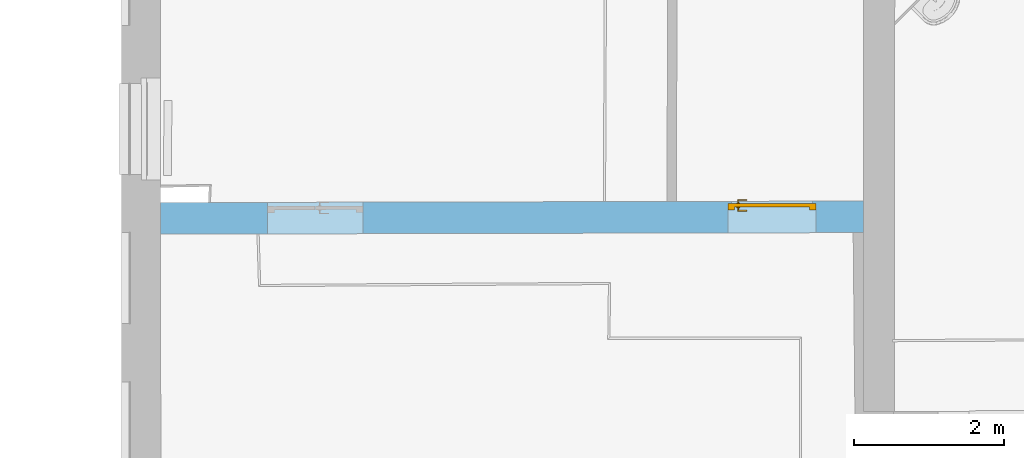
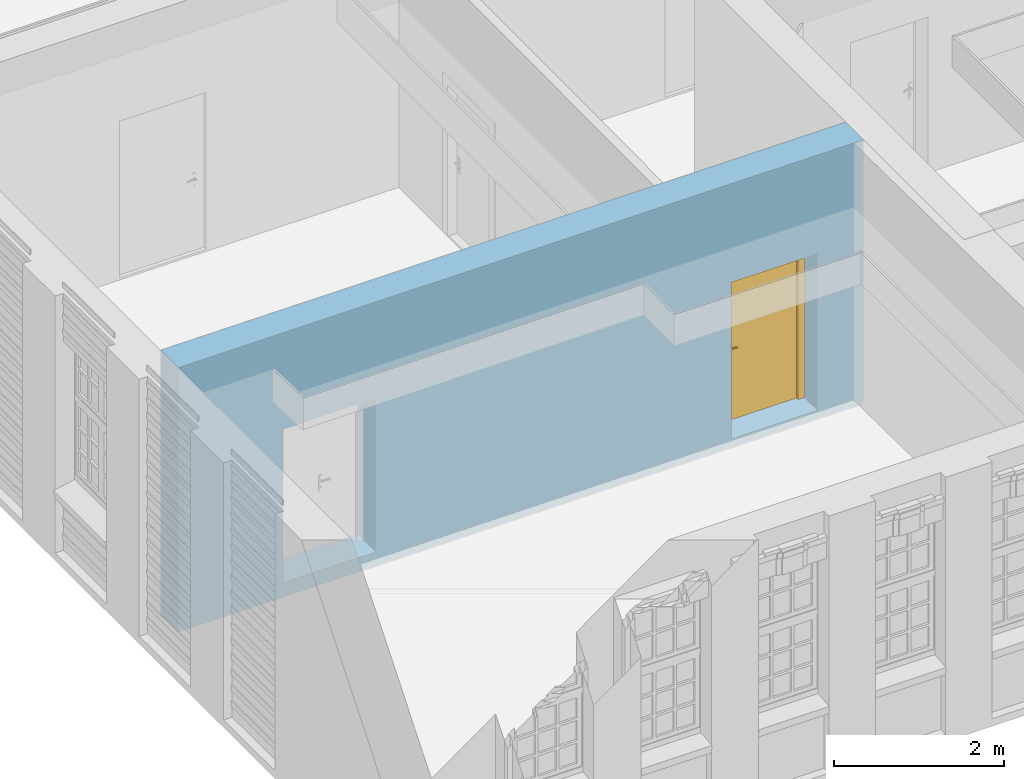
# One storey, part 67 of 158: 1 door, 2 openings, plus 1 element that does not belong to this part.
"""IFC2X3 building model written with IfcOpenShell, lengths in metres."""

from ifc_helpers import new_model, entity, si_unit, converted_unit, derived_unit, money_unit, direction, frame, origin_with_axes, origin_2d_with_axis, place, context, subcontext, project, spatial, polyline, rectangle, outline, extrude, faceted_brep, material, layer, layer_set, layer_usage, type_object, element, fill, save


model = new_model("IFC2X3")

# Units and contexts
model_context = context("Model", 3, precision=1e-05, world=origin_with_axes(), true_north=direction((0.0, 1.0)))
body_context = subcontext(model_context, "Body", "Model", "MODEL_VIEW")
ifc_project = project(units=[si_unit("LENGTHUNIT", "METRE"), si_unit("AREAUNIT", "SQUARE_METRE"), si_unit("VOLUMEUNIT", "CUBIC_METRE"), converted_unit("PLANEANGLEUNIT", "DEGREE", entity("IfcPlaneAngleMeasure", 0.0174532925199), si_unit("PLANEANGLEUNIT", "RADIAN"), dimensions=[0, 0, 0, 0, 0, 0, 0]), money_unit("EUR"), converted_unit("TIMEUNIT", "Year", entity("IfcTimeMeasure", 31556926.0), si_unit("TIMEUNIT", "SECOND"), dimensions=[0, 0, 1, 0, 0, 0, 0]), si_unit("MASSUNIT", "GRAM", prefix="KILO"), si_unit("THERMODYNAMICTEMPERATUREUNIT", "DEGREE_CELSIUS"), si_unit("LUMINOUSINTENSITYUNIT", "LUMEN"), si_unit("ENERGYUNIT", "JOULE", prefix="MEGA"), derived_unit("THERMALCONDUCTANCEUNIT", [(si_unit("POWERUNIT", "WATT"), 1), (si_unit("LENGTHUNIT", "METRE"), -1), (si_unit("THERMODYNAMICTEMPERATUREUNIT", "KELVIN"), -1)]), derived_unit("SPECIFICHEATCAPACITYUNIT", [(si_unit("ENERGYUNIT", "JOULE"), 1), (si_unit("MASSUNIT", "GRAM", prefix="KILO"), -1), (si_unit("THERMODYNAMICTEMPERATUREUNIT", "KELVIN"), -1)]), derived_unit("MASSDENSITYUNIT", [(si_unit("MASSUNIT", "GRAM", prefix="KILO"), 1), (si_unit("VOLUMEUNIT", "CUBIC_METRE"), -1)])], contexts=[model_context])

# Site, building, storey
site_placement = place(None, origin_with_axes())
site = spatial("IfcSite", under=ifc_project, at=site_placement, Name="Gelände", CompositionType="ELEMENT")
building_placement = place(site_placement, origin_with_axes())
building = spatial("IfcBuilding", under=site, at=building_placement, Name="Gebäude", CompositionType="ELEMENT")
storey_placement = place(building_placement, origin_with_axes())
storey = spatial("IfcBuildingStorey", under=building, at=storey_placement, Name="ERDGESCHOSS", CompositionType="ELEMENT", Elevation=0.0)

# Wall, openings, door
ifc_material = material(Name="05_ALLGEMEIN - TRAGENDE BAUTEILE")
ifc_layer = layer(ifc_material, 0.42, ventilated="UNKNOWN")
ifc_layer_set = layer_set([ifc_layer], Name="05_ALLGEMEIN - TRAGENDE BAUTEILE 0.42")
ifc_layer_usage = layer_usage(ifc_layer_set, "AXIS2", "NEGATIVE", 0.42)
wall_type = type_object("IfcWallType", Name="05_ALLGEMEIN - TRAGENDE BAUTEILE 420", PredefinedType="ELEMENTEDWALL")
wall_placement = place(storey_placement, frame((-17.7771544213, 13.195106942, -0.21), z_axis=(0.0, 0.0, 1.0), x_axis=(-0.999997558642, -0.00220968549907, 0.0)))
wall = element("IfcWallStandardCase", 1, at=wall_placement, inside=storey, type_object=wall_type, material=ifc_layer_usage, Name="Wand-036", ObjectType="ELEMENTEDWALL", context=body_context, shape_type="SweptSolid", body=[
    extrude(outline(polyline([(0.414617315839, 0.0), (9.75958256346, 0.0), (9.76011828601, 0.42), (0.41584293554, 0.42), (0.414617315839, 0.0)])), origin_with_axes(), (0.0, 0.0, 1.0), 3.81),
])
opening_1_placement = place(wall_placement, frame((1.63089468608, 0.0, 0.133355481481), z_axis=(0.0, 0.0, 1.0), x_axis=(1.0, 0.0, 0.0)))
opening_1 = element("IfcOpeningElement", 2, at=opening_1_placement, cuts=wall, Name="Tür-023", context=body_context, shape_type="SweptSolid", body=[
    extrude(rectangle(XDim=1.17438939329, YDim=2.257862, at=origin_2d_with_axis()), frame((0.0, 0.0279724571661, 1.128931), z_axis=(0.0, -1.0, 0.0), x_axis=(-1.0, 0.0, 0.0)), (0.0, 0.0, -1.0), 0.812027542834),
    extrude(rectangle(XDim=1.07438939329, YDim=2.207862, at=origin_2d_with_axis()), frame((0.0, 0.0279724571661, 1.103931), z_axis=(0.0, 1.0, 0.0), x_axis=(-1.0, 0.0, 0.0)), (0.0, 0.0, -1.0), 0.447972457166),
])
opening_2_placement = place(wall_placement, frame((7.70327770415, 0.0, 0.210293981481), z_axis=(0.0, 0.0, 1.0), x_axis=(1.0, 0.0, 0.0)))
element("IfcOpeningElement", 3, at=opening_2_placement, cuts=wall, Name="Tür-023", context=body_context, shape_type="SweptSolid", body=[
    extrude(rectangle(XDim=1.26631133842, YDim=2.212845, at=origin_2d_with_axis()), frame((0.0, 0.05, 1.1064225), z_axis=(0.0, -1.0, 0.0), x_axis=(-1.0, 0.0, 0.0)), (0.0, 0.0, -1.0), 0.79),
    extrude(rectangle(XDim=1.26631133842, YDim=2.212845, at=origin_2d_with_axis()), frame((0.0, 0.05, 1.1064225), z_axis=(0.0, 1.0, 0.0), x_axis=(-1.0, 0.0, 0.0)), (0.0, 0.0, -1.0), 0.47),
])
door_style = type_object("IfcDoorStyle", Name="Blockrahmentür 1-Fl 25", ConstructionType="NOTDEFINED", OperationType="SINGLE_SWING_RIGHT", ParameterTakesPrecedence=False, Sizeable=False)
door_placement = place(opening_1_placement, frame((0.497194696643, 0.0, 0.0), z_axis=(0.0, 0.0, 1.0), x_axis=(-1.0, 0.0, 0.0)))
door = element("IfcDoor", 4, at=door_placement, inside=storey, type_object=door_style, Name="Tür-023", ObjectType="NOTDEFINED", OverallHeight=2.25786, OverallWidth=1.17439, context=body_context, shape_type="Brep", body=[
    faceted_brep([(1.08438939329, -0.117972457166, 0.0), (1.08438939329, -0.0779724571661, 0.0), (1.08438939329, -0.0779724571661, 2.257862), (1.08438939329, -0.117972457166, 2.257862), (0.994389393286, -0.117972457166, 0.0), (0.994389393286, -0.0779724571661, 0.0), (0.994389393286, -0.0779724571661, 2.167862), (0.609294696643, -0.0779724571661, 2.167862), (0.497294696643, -0.0779724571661, 2.167862), (0.0, -0.0779724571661, 2.167862), (0.0, -0.0779724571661, 0.0), (-0.09, -0.0779724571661, 0.0), (-0.09, -0.0779724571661, 2.257862), (-0.09, -0.117972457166, 2.257862), (-0.09, -0.117972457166, 0.0), (0.0, -0.117972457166, 0.0), (0.0, -0.117972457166, 2.167862), (0.497294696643, -0.117972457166, 2.167862), (0.609294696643, -0.117972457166, 2.167862), (0.994389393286, -0.117972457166, 2.167862)], [[[0, 1, 2, 3]], [[4, 5, 1, 0]], [[1, 5, 6, 7, 8, 9, 10, 11, 12, 2]], [[3, 2, 12, 13]], [[0, 3, 13, 14, 15, 16, 17, 18, 19, 4]], [[19, 6, 5, 4]], [[18, 7, 6, 19]], [[17, 8, 7, 18]], [[16, 9, 8, 17]], [[15, 10, 9, 16]], [[14, 11, 10, 15]], [[13, 12, 11, 14]]]),
    faceted_brep([(1.08438939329, -0.0779724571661, 0.0), (1.08438939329, -0.0279724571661, 0.0), (1.08438939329, -0.0279724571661, 2.257862), (1.08438939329, -0.0779724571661, 2.257862), (1.00638939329, -0.0779724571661, 0.0), (1.00638939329, -0.0279724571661, 0.0), (1.00638939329, -0.0279724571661, 2.179862), (0.597294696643, -0.0279724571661, 2.179862), (0.509294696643, -0.0279724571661, 2.179862), (-0.012, -0.0279724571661, 2.179862), (-0.012, -0.0279724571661, 0.0), (-0.09, -0.0279724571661, 0.0), (-0.09, -0.0279724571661, 2.257862), (-0.09, -0.0779724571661, 2.257862), (-0.09, -0.0779724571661, 0.0), (-0.012, -0.0779724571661, 0.0), (-0.012, -0.0779724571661, 2.179862), (0.509294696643, -0.0779724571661, 2.179862), (0.597294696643, -0.0779724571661, 2.179862), (1.00638939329, -0.0779724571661, 2.179862)], [[[0, 1, 2, 3]], [[4, 5, 1, 0]], [[1, 5, 6, 7, 8, 9, 10, 11, 12, 2]], [[3, 2, 12, 13]], [[0, 3, 13, 14, 15, 16, 17, 18, 19, 4]], [[19, 6, 5, 4]], [[18, 7, 6, 19]], [[17, 8, 7, 18]], [[16, 9, 8, 17]], [[15, 10, 9, 16]], [[14, 11, 10, 15]], [[13, 12, 11, 14]]]),
    faceted_brep([(1.00638939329, -0.0299724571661, 0.0), (-0.012, -0.0299724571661, 0.0), (-0.012, -0.0299724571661, 2.179862), (1.00638939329, -0.0299724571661, 2.179862), (1.00638939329, -0.0779724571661, 0.0), (-0.012, -0.0779724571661, 0.0), (-0.012, -0.0779724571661, 2.179862), (1.00638939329, -0.0779724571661, 2.179862)], [[[0, 1, 2, 3]], [[1, 0, 4, 5]], [[2, 1, 5, 6]], [[3, 2, 6, 7]], [[0, 3, 7, 4]], [[5, 4, 7, 6]]]),
    faceted_brep([(0.0432977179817, -0.117972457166, 1.05647213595), (0.048, -0.117972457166, 1.058), (0.048, -0.0979724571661, 1.058), (0.0432977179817, -0.0979724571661, 1.05647213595), (0.0403915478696, -0.117972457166, 1.05247213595), (0.0403915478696, -0.117972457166, 1.04752786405), (0.0432977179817, -0.117972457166, 1.04352786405), (0.048, -0.117972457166, 1.042), (0.0527022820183, -0.117972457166, 1.04352786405), (0.0556084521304, -0.117972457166, 1.04752786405), (0.0556084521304, -0.117972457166, 1.05247213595), (0.0527022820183, -0.117972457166, 1.05647213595), (0.0527022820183, -0.0979724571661, 1.05647213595), (0.048, -0.0959724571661, 1.06), (0.0421221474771, -0.0959724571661, 1.05809016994), (0.0403915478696, -0.0979724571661, 1.05247213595), (0.0403915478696, -0.0979724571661, 1.04752786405), (0.0432977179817, -0.0979724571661, 1.04352786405), (0.048, -0.0979724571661, 1.042), (0.0527022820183, -0.0979724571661, 1.04352786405), (0.0556084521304, -0.0979724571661, 1.04752786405), (0.0556084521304, -0.0979724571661, 1.05247213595), (0.0538778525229, -0.0959724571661, 1.05809016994), (0.048, -0.0879724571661, 1.06), (0.0421221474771, -0.0879724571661, 1.05809016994), (0.038489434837, -0.0959724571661, 1.05309016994), (0.038489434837, -0.0959724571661, 1.04690983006), (0.0421221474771, -0.0959724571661, 1.04190983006), (0.048, -0.0959724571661, 1.04), (0.0538778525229, -0.0959724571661, 1.04190983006), (0.0575105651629, -0.0959724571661, 1.04690983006), (0.0575105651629, -0.0959724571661, 1.05309016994), (0.0538778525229, -0.0879724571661, 1.05809016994), (0.0575105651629, -0.0879724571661, 1.05309016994), (0.0575105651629, -0.0879724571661, 1.04690983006), (0.0538778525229, -0.0879724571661, 1.04190983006), (0.048, -0.0879724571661, 1.04), (0.0421221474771, -0.0879724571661, 1.04190983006), (0.038489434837, -0.0879724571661, 1.04690983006), (0.038489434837, -0.0879724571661, 1.05309016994)], [[[0, 1, 2, 3]], [[1, 0, 4, 5, 6, 7, 8, 9, 10, 11]], [[1, 11, 12, 2]], [[3, 2, 13, 14]], [[4, 0, 3, 15]], [[5, 4, 15, 16]], [[6, 5, 16, 17]], [[7, 6, 17, 18]], [[8, 7, 18, 19]], [[9, 8, 19, 20]], [[10, 9, 20, 21]], [[11, 10, 21, 12]], [[2, 12, 22, 13]], [[14, 13, 23, 24]], [[15, 3, 14, 25]], [[16, 15, 25, 26]], [[17, 16, 26, 27]], [[18, 17, 27, 28]], [[19, 18, 28, 29]], [[20, 19, 29, 30]], [[21, 20, 30, 31]], [[12, 21, 31, 22]], [[13, 22, 32, 23]], [[23, 32, 33, 34, 35, 36, 37, 38, 39, 24]], [[25, 14, 24, 39]], [[26, 25, 39, 38]], [[27, 26, 38, 37]], [[28, 27, 37, 36]], [[29, 28, 36, 35]], [[30, 29, 35, 34]], [[31, 30, 34, 33]], [[22, 31, 33, 32]]]),
    faceted_brep([(0.0601883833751, -0.0879724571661, 1.11759695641), (0.0524435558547, -0.0879724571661, 1.12195567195), (0.0435564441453, -0.0879724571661, 1.12195567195), (0.0358116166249, -0.0879724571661, 1.11759695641), (0.0312, -0.0879724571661, 1.11), (0.0255, -0.0879724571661, 1.11), (0.0255, -0.0879724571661, 0.89), (0.0312, -0.0879724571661, 0.89), (0.0358116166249, -0.0879724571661, 0.882403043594), (0.0435564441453, -0.0879724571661, 0.878044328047), (0.0524435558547, -0.0879724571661, 0.878044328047), (0.0601883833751, -0.0879724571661, 0.882403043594), (0.0648, -0.0879724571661, 0.89), (0.0705, -0.0879724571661, 0.89), (0.0705, -0.0879724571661, 1.11), (0.0648, -0.0879724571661, 1.11), (0.048, -0.0879724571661, 0.967425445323), (0.0533751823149, -0.0879724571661, 0.965143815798), (0.0554678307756, -0.0879724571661, 0.959692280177), (0.053, -0.0879724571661, 0.9544), (0.053, -0.0879724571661, 0.9375), (0.0515355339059, -0.0879724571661, 0.933964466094), (0.048, -0.0879724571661, 0.9325), (0.0444644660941, -0.0879724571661, 0.933964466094), (0.043, -0.0879724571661, 0.9375), (0.043, -0.0879724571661, 0.9544), (0.0405321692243, -0.0879724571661, 0.959692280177), (0.042624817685, -0.0879724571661, 0.965143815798), (0.0601883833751, -0.0779724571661, 1.11759695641), (0.0524435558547, -0.0779724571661, 1.12195567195), (0.0435564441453, -0.0779724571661, 1.12195567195), (0.0358116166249, -0.0779724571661, 1.11759695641), (0.0312, -0.0779724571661, 1.11), (0.0255, -0.0779724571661, 1.11), (0.0255, -0.0779724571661, 0.89), (0.0312, -0.0779724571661, 0.89), (0.0358116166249, -0.0779724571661, 0.882403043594), (0.0435564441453, -0.0779724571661, 0.878044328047), (0.0524435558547, -0.0779724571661, 0.878044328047), (0.0601883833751, -0.0779724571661, 0.882403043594), (0.0648, -0.0779724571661, 0.89), (0.0705, -0.0779724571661, 0.89), (0.0705, -0.0779724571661, 1.11), (0.0648, -0.0779724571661, 1.11), (0.048, -0.0779724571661, 0.967425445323), (0.0533751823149, -0.0779724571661, 0.965143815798), (0.0554678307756, -0.0779724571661, 0.959692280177), (0.053, -0.0779724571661, 0.9544), (0.053, -0.0779724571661, 0.9375), (0.0515355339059, -0.0779724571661, 0.933964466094), (0.048, -0.0779724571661, 0.9325), (0.0444644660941, -0.0779724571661, 0.933964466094), (0.043, -0.0779724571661, 0.9375), (0.043, -0.0779724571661, 0.9544), (0.0405321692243, -0.0779724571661, 0.959692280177), (0.042624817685, -0.0779724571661, 0.965143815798)], [[[0, 1, 2, 3, 4, 5, 6, 7, 8, 9, 10, 11, 12, 13, 14, 15], [16, 17, 18, 19, 20, 21, 22, 23, 24, 25, 26, 27]], [[1, 0, 28, 29]], [[2, 1, 29, 30]], [[3, 2, 30, 31]], [[4, 3, 31, 32]], [[5, 4, 32, 33]], [[6, 5, 33, 34]], [[7, 6, 34, 35]], [[8, 7, 35, 36]], [[9, 8, 36, 37]], [[10, 9, 37, 38]], [[11, 10, 38, 39]], [[12, 11, 39, 40]], [[13, 12, 40, 41]], [[14, 13, 41, 42]], [[15, 14, 42, 43]], [[0, 15, 43, 28]], [[17, 16, 44, 45]], [[18, 17, 45, 46]], [[19, 18, 46, 47]], [[19, 47, 48, 20]], [[20, 48, 49, 21]], [[21, 49, 50, 22]], [[22, 50, 51, 23]], [[23, 51, 52, 24]], [[53, 25, 24, 52]], [[26, 25, 53, 54]], [[27, 26, 54, 55]], [[16, 27, 55, 44]], [[40, 39, 38, 37, 36, 35, 34, 33, 32, 31, 30, 29, 28, 43, 42, 41], [54, 53, 52, 51, 50, 49, 48, 47, 46, 45, 44, 55]]]),
    faceted_brep([(0.162253, -0.117972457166, 1.057158), (0.162253, -0.132972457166, 1.057158), (0.162254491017, -0.132972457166, 1.05719388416), (0.162254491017, -0.117972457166, 1.05719388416), (0.135225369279, -0.117972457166, 1.06432652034), (0.135225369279, -0.132972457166, 1.06432652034), (0.107397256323, -0.132972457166, 1.06706086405), (0.0794912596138, -0.132972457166, 1.06529002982), (0.052232, -0.132972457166, 1.05906), (0.0458294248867, -0.132972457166, 1.05976125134), (0.0403273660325, -0.132972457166, 1.05641280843), (0.0380084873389, -0.132972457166, 1.05040385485), (0.0398348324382, -0.132972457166, 1.04422735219), (0.0450486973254, -0.132972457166, 1.04044577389), (0.0514869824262, -0.132972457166, 1.04062800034), (0.0564786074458, -0.132972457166, 1.04469843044), (0.056458, -0.132972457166, 1.044666), (0.0817467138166, -0.132972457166, 1.05019878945), (0.107589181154, -0.132972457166, 1.05171460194), (0.133351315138, -0.132972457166, 1.04917624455), (0.158401, -0.132972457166, 1.042646), (0.163944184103, -0.132972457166, 1.04356849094), (0.16730572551, -0.132972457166, 1.04807159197), (0.166614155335, -0.132972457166, 1.05364829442), (0.166614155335, -0.117972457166, 1.05364829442), (0.16730572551, -0.117972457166, 1.04807159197), (0.163944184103, -0.117972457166, 1.04356849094), (0.158401, -0.117972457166, 1.042646), (0.133351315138, -0.117972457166, 1.04917624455), (0.107589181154, -0.117972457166, 1.05171460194), (0.0817467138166, -0.117972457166, 1.05019878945), (0.056458, -0.117972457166, 1.044666), (0.0564786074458, -0.117972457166, 1.04469843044), (0.0514869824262, -0.117972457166, 1.04062800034), (0.0450486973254, -0.117972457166, 1.04044577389), (0.0398348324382, -0.117972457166, 1.04422735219), (0.0380084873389, -0.117972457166, 1.05040385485), (0.0403273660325, -0.117972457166, 1.05641280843), (0.0458294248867, -0.117972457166, 1.05976125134), (0.052232, -0.117972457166, 1.05906), (0.0794912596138, -0.117972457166, 1.06529002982), (0.107397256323, -0.117972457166, 1.06706086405)], [[[0, 1, 2, 3]], [[4, 5, 1, 0]], [[1, 5, 6, 7, 8, 9, 10, 11, 12, 13, 14, 15, 16, 17, 18, 19, 20, 21, 22, 23, 2]], [[3, 2, 23, 24]], [[0, 3, 24, 25, 26, 27, 28, 29, 30, 31, 32, 33, 34, 35, 36, 37, 38, 39, 40, 41, 4]], [[41, 6, 5, 4]], [[40, 7, 6, 41]], [[39, 8, 7, 40]], [[38, 9, 8, 39]], [[37, 10, 9, 38]], [[36, 11, 10, 37]], [[35, 12, 11, 36]], [[34, 13, 12, 35]], [[33, 14, 13, 34]], [[32, 15, 14, 33]], [[31, 16, 15, 32]], [[30, 17, 16, 31]], [[29, 18, 17, 30]], [[28, 19, 18, 29]], [[27, 20, 19, 28]], [[26, 21, 20, 27]], [[25, 22, 21, 26]], [[24, 23, 22, 25]]]),
    faceted_brep([(0.0432977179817, 0.0100275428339, 1.05647213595), (0.0432977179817, -0.00997245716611, 1.05647213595), (0.048, -0.00997245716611, 1.058), (0.048, 0.0100275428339, 1.058), (0.0403915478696, 0.0100275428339, 1.05247213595), (0.0403915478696, -0.00997245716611, 1.05247213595), (0.0421221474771, -0.0119724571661, 1.05809016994), (0.048, -0.0119724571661, 1.06), (0.0527022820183, -0.00997245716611, 1.05647213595), (0.0527022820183, 0.0100275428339, 1.05647213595), (0.0556084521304, 0.0100275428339, 1.05247213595), (0.0556084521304, 0.0100275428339, 1.04752786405), (0.0527022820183, 0.0100275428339, 1.04352786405), (0.048, 0.0100275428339, 1.042), (0.0432977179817, 0.0100275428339, 1.04352786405), (0.0403915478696, 0.0100275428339, 1.04752786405), (0.0403915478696, -0.00997245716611, 1.04752786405), (0.038489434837, -0.0119724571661, 1.05309016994), (0.0421221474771, -0.0199724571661, 1.05809016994), (0.048, -0.0199724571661, 1.06), (0.0538778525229, -0.0119724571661, 1.05809016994), (0.0556084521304, -0.00997245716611, 1.05247213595), (0.0556084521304, -0.00997245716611, 1.04752786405), (0.0527022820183, -0.00997245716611, 1.04352786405), (0.048, -0.00997245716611, 1.042), (0.0432977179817, -0.00997245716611, 1.04352786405), (0.038489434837, -0.0119724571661, 1.04690983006), (0.038489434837, -0.0199724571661, 1.05309016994), (0.038489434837, -0.0199724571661, 1.04690983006), (0.0421221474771, -0.0199724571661, 1.04190983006), (0.048, -0.0199724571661, 1.04), (0.0538778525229, -0.0199724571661, 1.04190983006), (0.0575105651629, -0.0199724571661, 1.04690983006), (0.0575105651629, -0.0199724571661, 1.05309016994), (0.0538778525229, -0.0199724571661, 1.05809016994), (0.0575105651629, -0.0119724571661, 1.05309016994), (0.0575105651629, -0.0119724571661, 1.04690983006), (0.0538778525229, -0.0119724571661, 1.04190983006), (0.048, -0.0119724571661, 1.04), (0.0421221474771, -0.0119724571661, 1.04190983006)], [[[0, 1, 2, 3]], [[4, 5, 1, 0]], [[1, 6, 7, 2]], [[3, 2, 8, 9]], [[3, 9, 10, 11, 12, 13, 14, 15, 4, 0]], [[15, 16, 5, 4]], [[5, 17, 6, 1]], [[6, 18, 19, 7]], [[2, 7, 20, 8]], [[9, 8, 21, 10]], [[10, 21, 22, 11]], [[11, 22, 23, 12]], [[12, 23, 24, 13]], [[13, 24, 25, 14]], [[14, 25, 16, 15]], [[16, 26, 17, 5]], [[17, 27, 18, 6]], [[19, 18, 27, 28, 29, 30, 31, 32, 33, 34]], [[7, 19, 34, 20]], [[8, 20, 35, 21]], [[21, 35, 36, 22]], [[22, 36, 37, 23]], [[23, 37, 38, 24]], [[24, 38, 39, 25]], [[25, 39, 26, 16]], [[26, 28, 27, 17]], [[39, 29, 28, 26]], [[38, 30, 29, 39]], [[37, 31, 30, 38]], [[36, 32, 31, 37]], [[35, 33, 32, 36]], [[20, 34, 33, 35]]]),
    faceted_brep([(0.0601883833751, -0.0299724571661, 1.11759695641), (0.0524435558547, -0.0299724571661, 1.12195567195), (0.0435564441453, -0.0299724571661, 1.12195567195), (0.0358116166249, -0.0299724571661, 1.11759695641), (0.0312, -0.0299724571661, 1.11), (0.0255, -0.0299724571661, 1.11), (0.0255, -0.0299724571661, 0.89), (0.0312, -0.0299724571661, 0.89), (0.0358116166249, -0.0299724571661, 0.882403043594), (0.0435564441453, -0.0299724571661, 0.878044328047), (0.0524435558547, -0.0299724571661, 0.878044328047), (0.0601883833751, -0.0299724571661, 0.882403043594), (0.0648, -0.0299724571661, 0.89), (0.0705, -0.0299724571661, 0.89), (0.0705, -0.0299724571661, 1.11), (0.0648, -0.0299724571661, 1.11), (0.048, -0.0299724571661, 0.967425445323), (0.053375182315, -0.0299724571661, 0.965143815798), (0.0554678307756, -0.0299724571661, 0.959692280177), (0.053, -0.0299724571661, 0.9544), (0.053, -0.0299724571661, 0.9375), (0.0515355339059, -0.0299724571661, 0.933964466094), (0.048, -0.0299724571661, 0.9325), (0.0444644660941, -0.0299724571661, 0.933964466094), (0.043, -0.0299724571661, 0.9375), (0.043, -0.0299724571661, 0.9544), (0.0405321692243, -0.0299724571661, 0.959692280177), (0.042624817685, -0.0299724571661, 0.965143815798), (0.0524435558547, -0.0199724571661, 1.12195567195), (0.0601883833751, -0.0199724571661, 1.11759695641), (0.0435564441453, -0.0199724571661, 1.12195567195), (0.0358116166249, -0.0199724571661, 1.11759695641), (0.0312, -0.0199724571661, 1.11), (0.0255, -0.0199724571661, 1.11), (0.0255, -0.0199724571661, 0.89), (0.0312, -0.0199724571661, 0.89), (0.0358116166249, -0.0199724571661, 0.882403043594), (0.0435564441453, -0.0199724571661, 0.878044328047), (0.0524435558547, -0.0199724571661, 0.878044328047), (0.0601883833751, -0.0199724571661, 0.882403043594), (0.0648, -0.0199724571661, 0.89), (0.0705, -0.0199724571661, 0.89), (0.0705, -0.0199724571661, 1.11), (0.0648, -0.0199724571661, 1.11), (0.048, -0.0199724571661, 0.967425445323), (0.0533751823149, -0.0199724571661, 0.965143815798), (0.0554678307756, -0.0199724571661, 0.959692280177), (0.053, -0.0199724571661, 0.9544), (0.053, -0.0199724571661, 0.9375), (0.0515355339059, -0.0199724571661, 0.933964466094), (0.048, -0.0199724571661, 0.9325), (0.0444644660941, -0.0199724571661, 0.933964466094), (0.043, -0.0199724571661, 0.9375), (0.043, -0.0199724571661, 0.9544), (0.0405321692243, -0.0199724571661, 0.959692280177), (0.042624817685, -0.0199724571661, 0.965143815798)], [[[0, 1, 2, 3, 4, 5, 6, 7, 8, 9, 10, 11, 12, 13, 14, 15], [16, 17, 18, 19, 20, 21, 22, 23, 24, 25, 26, 27]], [[28, 1, 0, 29]], [[30, 2, 1, 28]], [[31, 3, 2, 30]], [[32, 4, 3, 31]], [[33, 5, 4, 32]], [[34, 6, 5, 33]], [[35, 7, 6, 34]], [[36, 8, 7, 35]], [[37, 9, 8, 36]], [[38, 10, 9, 37]], [[39, 11, 10, 38]], [[40, 12, 11, 39]], [[41, 13, 12, 40]], [[42, 14, 13, 41]], [[43, 15, 14, 42]], [[29, 0, 15, 43]], [[17, 16, 44, 45]], [[18, 17, 45, 46]], [[19, 18, 46, 47]], [[19, 47, 48, 20]], [[20, 48, 49, 21]], [[21, 49, 50, 22]], [[22, 50, 51, 23]], [[23, 51, 52, 24]], [[53, 25, 24, 52]], [[26, 25, 53, 54]], [[27, 26, 54, 55]], [[16, 27, 55, 44]], [[40, 39, 38, 37, 36, 35, 34, 33, 32, 31, 30, 28, 29, 43, 42, 41], [54, 53, 52, 51, 50, 49, 48, 47, 46, 45, 44, 55]]]),
    faceted_brep([(0.162253, 0.0100275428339, 1.057158), (0.162254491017, 0.0100275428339, 1.05719388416), (0.162254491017, 0.0250275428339, 1.05719388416), (0.162253, 0.0250275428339, 1.057158), (0.135225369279, 0.0100275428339, 1.06432652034), (0.107397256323, 0.0100275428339, 1.06706086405), (0.0794912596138, 0.0100275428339, 1.06529002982), (0.052232, 0.0100275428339, 1.05906), (0.0458294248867, 0.0100275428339, 1.05976125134), (0.0403273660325, 0.0100275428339, 1.05641280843), (0.0380084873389, 0.0100275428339, 1.05040385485), (0.0398348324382, 0.0100275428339, 1.04422735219), (0.0450486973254, 0.0100275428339, 1.04044577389), (0.0514869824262, 0.0100275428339, 1.04062800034), (0.0564786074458, 0.0100275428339, 1.04469843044), (0.056458, 0.0100275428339, 1.044666), (0.0817467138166, 0.0100275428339, 1.05019878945), (0.107589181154, 0.0100275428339, 1.05171460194), (0.133351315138, 0.0100275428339, 1.04917624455), (0.158401, 0.0100275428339, 1.042646), (0.163944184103, 0.0100275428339, 1.04356849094), (0.16730572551, 0.0100275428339, 1.04807159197), (0.166614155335, 0.0100275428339, 1.05364829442), (0.166614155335, 0.0250275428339, 1.05364829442), (0.16730572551, 0.0250275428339, 1.04807159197), (0.163944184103, 0.0250275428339, 1.04356849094), (0.158401, 0.0250275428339, 1.042646), (0.133351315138, 0.0250275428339, 1.04917624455), (0.107589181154, 0.0250275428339, 1.05171460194), (0.0817467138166, 0.0250275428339, 1.05019878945), (0.056458, 0.0250275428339, 1.044666), (0.0564786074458, 0.0250275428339, 1.04469843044), (0.0514869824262, 0.0250275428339, 1.04062800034), (0.0450486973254, 0.0250275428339, 1.04044577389), (0.0398348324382, 0.0250275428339, 1.04422735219), (0.0380084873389, 0.0250275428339, 1.05040385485), (0.0403273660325, 0.0250275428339, 1.05641280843), (0.0458294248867, 0.0250275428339, 1.05976125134), (0.052232, 0.0250275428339, 1.05906), (0.0794912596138, 0.0250275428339, 1.06529002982), (0.107397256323, 0.0250275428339, 1.06706086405), (0.135225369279, 0.0250275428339, 1.06432652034)], [[[0, 1, 2, 3]], [[0, 4, 5, 6, 7, 8, 9, 10, 11, 12, 13, 14, 15, 16, 17, 18, 19, 20, 21, 22, 1]], [[1, 22, 23, 2]], [[3, 2, 23, 24, 25, 26, 27, 28, 29, 30, 31, 32, 33, 34, 35, 36, 37, 38, 39, 40, 41]], [[4, 0, 3, 41]], [[5, 4, 41, 40]], [[6, 5, 40, 39]], [[7, 6, 39, 38]], [[8, 7, 38, 37]], [[9, 8, 37, 36]], [[10, 9, 36, 35]], [[11, 10, 35, 34]], [[12, 11, 34, 33]], [[13, 12, 33, 32]], [[14, 13, 32, 31]], [[15, 14, 31, 30]], [[16, 15, 30, 29]], [[17, 16, 29, 28]], [[18, 17, 28, 27]], [[19, 18, 27, 26]], [[20, 19, 26, 25]], [[21, 20, 25, 24]], [[22, 21, 24, 23]]]),
])
fill(opening_1, door)

save(model, "model.ifc")
